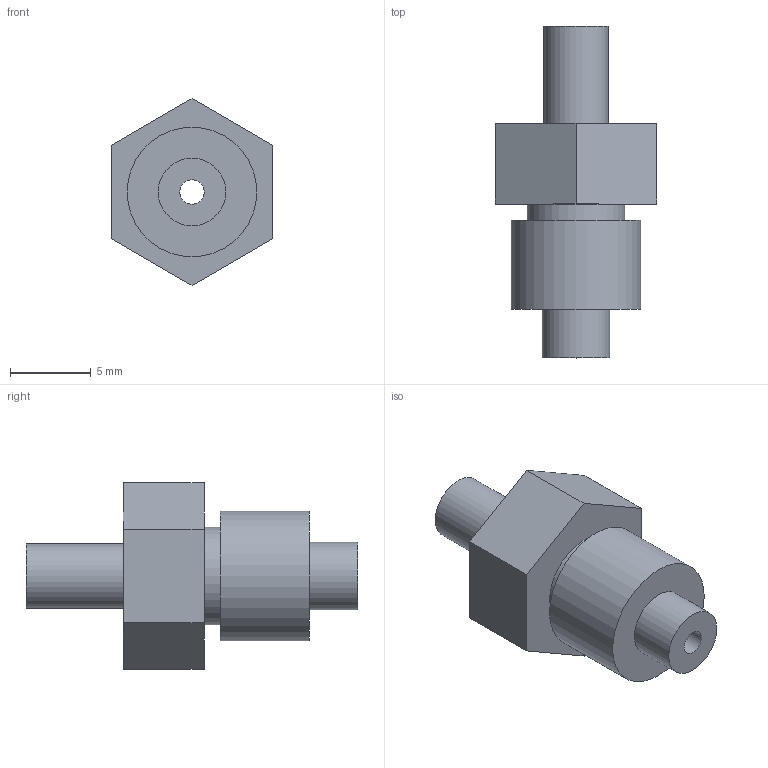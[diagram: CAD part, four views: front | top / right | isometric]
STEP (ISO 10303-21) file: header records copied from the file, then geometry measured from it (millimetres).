
FILE_DESCRIPTION(('Open CASCADE Model'),'2;1');
FILE_NAME('Open CASCADE Shape Model','2026-09-23T03:55:27',('Author'),( 'Open CASCADE'),'Open CASCADE STEP processor 7.9','Open CASCADE 7.9' ,'Unknown');
FILE_SCHEMA(('AUTOMOTIVE_DESIGN { 1 0 10303 214 1 1 1 1 }'));
Length unit declared in the file: millimetre
Products named in the file (1): Open CASCADE STEP translator 7.9 2
Bounding box: 10 x 20.5 x 11.55 mm (x, y, z)
Volume: 818.7 mm3; surface area: 755.6 mm2
Topology: 1 solids, 1 shells, 17 faces, 33 edges, 22 vertices
Faces by surface type: plane 12, cylinder 5
Full cylindrical faces by diameter (mm): 1.5 x1, 4 x1, 4.2 x1, 6 x1, 8 x1
Entity records: 895 total; most frequent: CARTESIAN_POINT 169, DIRECTION 140, LINE 79, VECTOR 79, ORIENTED_EDGE 66, PCURVE 66, DEFINITIONAL_REPRESENTATION 66, EDGE_CURVE 33
